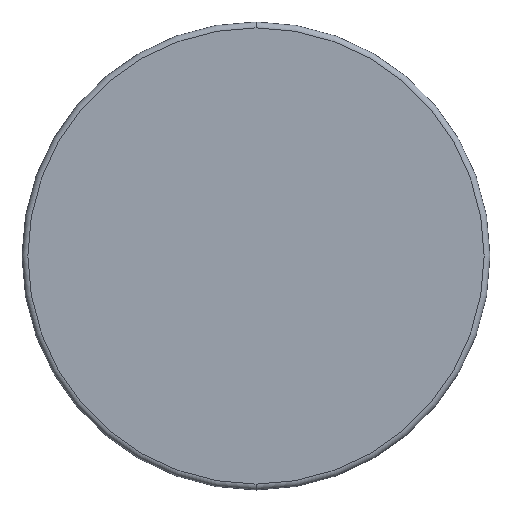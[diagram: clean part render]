
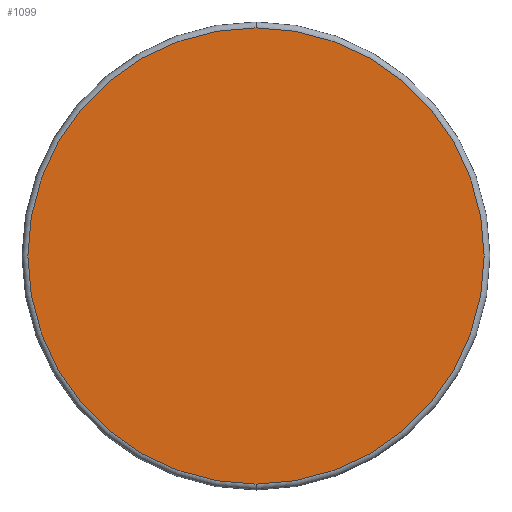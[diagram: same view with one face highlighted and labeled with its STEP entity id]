
A CAD part, front view. The second image highlights one B-rep face of the part: STEP entity #1099.
In plain terms, the highlighted planar face has unit normal (0, -1, 0).
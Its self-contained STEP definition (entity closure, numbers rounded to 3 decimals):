
#30 = CIRCLE ( 'NONE', #892, 39. ) ;
#34 = ORIENTED_EDGE ( 'NONE', *, *, #432, .T. ) ;
#54 = DIRECTION ( 'NONE',  ( 0., 1., 0. ) ) ;
#72 = VERTEX_POINT ( 'NONE', #554 ) ;
#117 = DIRECTION ( 'NONE',  ( 0., 0., -1. ) ) ;
#187 = CARTESIAN_POINT ( 'NONE',  ( 0., 0., 0. ) ) ;
#387 = EDGE_CURVE ( 'NONE', #565, #72, #30, .T. ) ;
#432 = EDGE_CURVE ( 'NONE', #72, #565, #544, .T. ) ;
#544 = CIRCLE ( 'NONE', #661, 39. ) ;
#551 = EDGE_LOOP ( 'NONE', ( #34, #600 ) ) ;
#554 = CARTESIAN_POINT ( 'NONE',  ( 0., 0., -39. ) ) ;
#565 = VERTEX_POINT ( 'NONE', #1126 ) ;
#573 = CARTESIAN_POINT ( 'NONE',  ( 0., 0., 0. ) ) ;
#584 = CARTESIAN_POINT ( 'NONE',  ( 0., 0., 0. ) ) ;
#600 = ORIENTED_EDGE ( 'NONE', *, *, #387, .T. ) ;
#661 = AXIS2_PLACEMENT_3D ( 'NONE', #187, #1092, #813 ) ;
#701 = DIRECTION ( 'NONE',  ( 0., 0., 1. ) ) ;
#800 = PLANE ( 'NONE',  #865 ) ;
#813 = DIRECTION ( 'NONE',  ( 0., 0., -1. ) ) ;
#865 = AXIS2_PLACEMENT_3D ( 'NONE', #573, #54, #701 ) ;
#892 = AXIS2_PLACEMENT_3D ( 'NONE', #584, #1135, #117 ) ;
#976 = FACE_OUTER_BOUND ( 'NONE', #551, .T. ) ;
#1092 = DIRECTION ( 'NONE',  ( 0., -1., 0. ) ) ;
#1099 = ADVANCED_FACE ( 'NONE', ( #976 ), #800, .F. ) ;
#1126 = CARTESIAN_POINT ( 'NONE',  ( 0., 0., 39. ) ) ;
#1135 = DIRECTION ( 'NONE',  ( 0., -1., 0. ) ) ;
